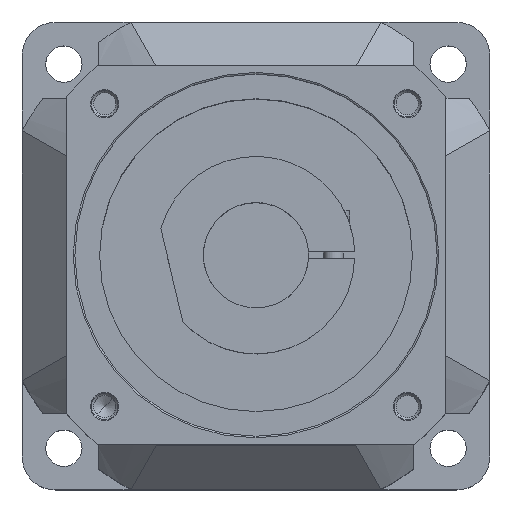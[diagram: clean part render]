
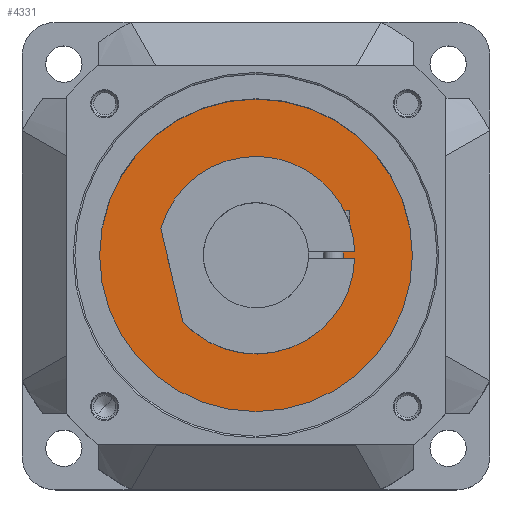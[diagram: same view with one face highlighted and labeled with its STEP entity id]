
A CAD part, top view. The second image highlights one B-rep face of the part: STEP entity #4331.
In plain terms, the highlighted planar face has unit normal (0, 0, 1) as drawn and (0, 1, 0) by its records, which use the part's own axes.
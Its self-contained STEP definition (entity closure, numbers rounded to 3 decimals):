
#2963=CARTESIAN_POINT('',(37.462,63.5,53.119));
#2993=CARTESIAN_POINT('',(53.119,63.5,37.462));
#3005=CARTESIAN_POINT('',(0.,63.5,0.));
#3006=DIRECTION('',(0.,1.,0.));
#3007=DIRECTION('',(0.,0.,1.));
#3008=AXIS2_PLACEMENT_3D('',#3005,#3006,#3007);
#3010=CARTESIAN_POINT('',(0.,63.5,0.));
#3011=DIRECTION('',(0.,1.,0.));
#3012=DIRECTION('',(0.,0.,-1.));
#3013=AXIS2_PLACEMENT_3D('',#3010,#3011,#3012);
#3015=DIRECTION('',(0.,0.,1.));
#3016=VECTOR('',#3015,7.157);
#3017=CARTESIAN_POINT('',(37.462,63.5,45.962));
#3018=LINE('',#3017,#3016);
#3019=CARTESIAN_POINT('',(0.,63.5,0.));
#3020=DIRECTION('',(0.,1.,0.));
#3021=DIRECTION('',(0.466,0.,0.885));
#3022=AXIS2_PLACEMENT_3D('',#3019,#3020,#3021);
#3024=DIRECTION('',(1.,0.,0.));
#3025=VECTOR('',#3024,60.622);
#3026=CARTESIAN_POINT('',(-30.311,63.5,57.5));
#3027=LINE('',#3026,#3025);
#3028=CARTESIAN_POINT('',(0.,63.5,0.));
#3029=DIRECTION('',(0.,1.,0.));
#3030=DIRECTION('',(-0.576,0.,0.817));
#3031=AXIS2_PLACEMENT_3D('',#3028,#3029,#3030);
#3033=DIRECTION('',(0.,0.,-1.));
#3034=VECTOR('',#3033,7.157);
#3035=CARTESIAN_POINT('',(-37.462,63.5,53.119));
#3036=LINE('',#3035,#3034);
#3037=CARTESIAN_POINT('',(-45.962,63.5,45.962));
#3038=DIRECTION('',(0.,1.,0.));
#3039=DIRECTION('',(1.,0.,0.));
#3040=AXIS2_PLACEMENT_3D('',#3037,#3038,#3039);
#3042=DIRECTION('',(-1.,0.,0.));
#3043=VECTOR('',#3042,7.157);
#3044=CARTESIAN_POINT('',(-45.962,63.5,37.462));
#3045=LINE('',#3044,#3043);
#3046=CARTESIAN_POINT('',(0.,63.5,0.));
#3047=DIRECTION('',(0.,1.,0.));
#3048=DIRECTION('',(-0.885,0.,0.466));
#3049=AXIS2_PLACEMENT_3D('',#3046,#3047,#3048);
#3051=DIRECTION('',(0.,0.,1.));
#3052=VECTOR('',#3051,60.622);
#3053=CARTESIAN_POINT('',(-57.5,63.5,-30.311));
#3054=LINE('',#3053,#3052);
#3055=CARTESIAN_POINT('',(0.,63.5,0.));
#3056=DIRECTION('',(0.,1.,0.));
#3057=DIRECTION('',(-0.817,0.,-0.576));
#3058=AXIS2_PLACEMENT_3D('',#3055,#3056,#3057);
#3060=DIRECTION('',(1.,0.,0.));
#3061=VECTOR('',#3060,7.157);
#3062=CARTESIAN_POINT('',(-53.119,63.5,-37.462));
#3063=LINE('',#3062,#3061);
#3064=CARTESIAN_POINT('',(-45.962,63.5,-45.962));
#3065=DIRECTION('',(0.,1.,0.));
#3066=DIRECTION('',(0.,0.,1.));
#3067=AXIS2_PLACEMENT_3D('',#3064,#3065,#3066);
#3069=DIRECTION('',(0.,0.,-1.));
#3070=VECTOR('',#3069,7.157);
#3071=CARTESIAN_POINT('',(-37.462,63.5,-45.962));
#3072=LINE('',#3071,#3070);
#3073=CARTESIAN_POINT('',(0.,63.5,0.));
#3074=DIRECTION('',(0.,1.,0.));
#3075=DIRECTION('',(-0.466,0.,-0.885));
#3076=AXIS2_PLACEMENT_3D('',#3073,#3074,#3075);
#3078=DIRECTION('',(-1.,0.,0.));
#3079=VECTOR('',#3078,60.622);
#3080=CARTESIAN_POINT('',(30.311,63.5,-57.5));
#3081=LINE('',#3080,#3079);
#3082=CARTESIAN_POINT('',(0.,63.5,0.));
#3083=DIRECTION('',(0.,1.,0.));
#3084=DIRECTION('',(0.576,0.,-0.817));
#3085=AXIS2_PLACEMENT_3D('',#3082,#3083,#3084);
#3087=DIRECTION('',(0.,0.,1.));
#3088=VECTOR('',#3087,7.157);
#3089=CARTESIAN_POINT('',(37.462,63.5,-53.119));
#3090=LINE('',#3089,#3088);
#3091=CARTESIAN_POINT('',(45.962,63.5,-45.962));
#3092=DIRECTION('',(0.,1.,0.));
#3093=DIRECTION('',(-1.,0.,0.));
#3094=AXIS2_PLACEMENT_3D('',#3091,#3092,#3093);
#3096=DIRECTION('',(1.,0.,0.));
#3097=VECTOR('',#3096,7.157);
#3098=CARTESIAN_POINT('',(45.962,63.5,-37.462));
#3099=LINE('',#3098,#3097);
#3100=CARTESIAN_POINT('',(0.,63.5,0.));
#3101=DIRECTION('',(0.,1.,0.));
#3102=DIRECTION('',(0.885,0.,-0.466));
#3103=AXIS2_PLACEMENT_3D('',#3100,#3101,#3102);
#3105=DIRECTION('',(0.,0.,-1.));
#3106=VECTOR('',#3105,60.622);
#3107=CARTESIAN_POINT('',(57.5,63.5,30.311));
#3108=LINE('',#3107,#3106);
#3109=CARTESIAN_POINT('',(0.,63.5,0.));
#3110=DIRECTION('',(0.,1.,0.));
#3111=DIRECTION('',(0.817,0.,0.576));
#3112=AXIS2_PLACEMENT_3D('',#3109,#3110,#3111);
#3114=DIRECTION('',(-1.,0.,0.));
#3115=VECTOR('',#3114,7.157);
#3116=CARTESIAN_POINT('',(53.119,63.5,37.462));
#3117=LINE('',#3116,#3115);
#3118=CARTESIAN_POINT('',(45.962,63.5,45.962));
#3119=DIRECTION('',(0.,1.,0.));
#3120=DIRECTION('',(0.,0.,-1.));
#3121=AXIS2_PLACEMENT_3D('',#3118,#3119,#3120);
#3452=CARTESIAN_POINT('',(-53.119,63.5,37.462));
#3482=CARTESIAN_POINT('',(-37.462,63.5,53.119));
#3598=CARTESIAN_POINT('',(-37.462,63.5,-53.119));
#3628=CARTESIAN_POINT('',(-53.119,63.5,-37.462));
#3726=CARTESIAN_POINT('',(53.119,63.5,-37.462));
#3756=CARTESIAN_POINT('',(37.462,63.5,-53.119));
#3848=CARTESIAN_POINT('',(-57.5,63.5,-30.311));
#3849=CARTESIAN_POINT('',(-57.5,63.5,30.311));
#3850=VERTEX_POINT('',#3848);
#3851=VERTEX_POINT('',#3849);
#3852=CARTESIAN_POINT('',(-30.311,63.5,57.5));
#3853=CARTESIAN_POINT('',(30.311,63.5,57.5));
#3854=VERTEX_POINT('',#3852);
#3855=VERTEX_POINT('',#3853);
#3856=CARTESIAN_POINT('',(57.5,63.5,30.311));
#3857=CARTESIAN_POINT('',(57.5,63.5,-30.311));
#3858=VERTEX_POINT('',#3856);
#3859=VERTEX_POINT('',#3857);
#3860=CARTESIAN_POINT('',(30.311,63.5,-57.5));
#3861=CARTESIAN_POINT('',(-30.311,63.5,-57.5));
#3862=VERTEX_POINT('',#3860);
#3863=VERTEX_POINT('',#3861);
#3958=CARTESIAN_POINT('',(0.,63.5,22.5));
#3959=CARTESIAN_POINT('',(0.,63.5,-22.5));
#3960=VERTEX_POINT('',#3958);
#3961=VERTEX_POINT('',#3959);
#3993=VERTEX_POINT('',#3726);
#3996=VERTEX_POINT('',#3756);
#3997=CARTESIAN_POINT('',(45.962,63.5,-37.462));
#3998=VERTEX_POINT('',#3997);
#3999=CARTESIAN_POINT('',(37.462,63.5,-45.962));
#4000=VERTEX_POINT('',#3999);
#4002=VERTEX_POINT('',#3598);
#4005=VERTEX_POINT('',#3628);
#4006=CARTESIAN_POINT('',(-37.462,63.5,-45.962));
#4007=VERTEX_POINT('',#4006);
#4008=CARTESIAN_POINT('',(-45.962,63.5,-37.462));
#4009=VERTEX_POINT('',#4008);
#4011=VERTEX_POINT('',#3452);
#4014=VERTEX_POINT('',#3482);
#4015=CARTESIAN_POINT('',(-45.962,63.5,37.462));
#4016=VERTEX_POINT('',#4015);
#4017=CARTESIAN_POINT('',(-37.462,63.5,45.962));
#4018=VERTEX_POINT('',#4017);
#4020=VERTEX_POINT('',#2963);
#4023=VERTEX_POINT('',#2993);
#4024=CARTESIAN_POINT('',(37.462,63.5,45.962));
#4025=VERTEX_POINT('',#4024);
#4026=CARTESIAN_POINT('',(45.962,63.5,37.462));
#4027=VERTEX_POINT('',#4026);
#4273=CARTESIAN_POINT('',(0.,63.5,0.));
#4274=DIRECTION('',(0.,-1.,0.));
#4275=DIRECTION('',(-1.,0.,0.));
#4276=AXIS2_PLACEMENT_3D('',#4273,#4274,#4275);
#4277=PLANE('',#4276);
#4278=ORIENTED_EDGE('',*,*,#4266,.T.);
#4279=ORIENTED_EDGE('',*,*,#4238,.F.);
#4281=ORIENTED_EDGE('',*,*,#4280,.F.);
#4283=ORIENTED_EDGE('',*,*,#4282,.F.);
#4285=ORIENTED_EDGE('',*,*,#4284,.T.);
#4287=ORIENTED_EDGE('',*,*,#4286,.T.);
#4289=ORIENTED_EDGE('',*,*,#4288,.T.);
#4291=ORIENTED_EDGE('',*,*,#4290,.F.);
#4293=ORIENTED_EDGE('',*,*,#4292,.F.);
#4295=ORIENTED_EDGE('',*,*,#4294,.F.);
#4297=ORIENTED_EDGE('',*,*,#4296,.T.);
#4299=ORIENTED_EDGE('',*,*,#4298,.T.);
#4301=ORIENTED_EDGE('',*,*,#4300,.T.);
#4303=ORIENTED_EDGE('',*,*,#4302,.F.);
#4305=ORIENTED_EDGE('',*,*,#4304,.F.);
#4307=ORIENTED_EDGE('',*,*,#4306,.F.);
#4309=ORIENTED_EDGE('',*,*,#4308,.T.);
#4311=ORIENTED_EDGE('',*,*,#4310,.T.);
#4313=ORIENTED_EDGE('',*,*,#4312,.T.);
#4315=ORIENTED_EDGE('',*,*,#4314,.F.);
#4317=ORIENTED_EDGE('',*,*,#4316,.F.);
#4318=ORIENTED_EDGE('',*,*,#4252,.F.);
#4320=ORIENTED_EDGE('',*,*,#4319,.T.);
#4322=ORIENTED_EDGE('',*,*,#4321,.T.);
#4323=EDGE_LOOP('',(#4278,#4279,#4281,#4283,#4285,#4287,#4289,#4291,#4293,#4295,
#4297,#4299,#4301,#4303,#4305,#4307,#4309,#4311,#4313,#4315,#4317,#4318,#4320,
#4322));
#4324=FACE_OUTER_BOUND('',#4323,.F.);
#4326=ORIENTED_EDGE('',*,*,#4325,.T.);
#4328=ORIENTED_EDGE('',*,*,#4327,.T.);
#4329=EDGE_LOOP('',(#4326,#4328));
#4330=FACE_BOUND('',#4329,.F.);
#4331=ADVANCED_FACE('',(#4324,#4330),#4277,.F.);
#3009=CIRCLE('',#3008,22.5);
#3014=CIRCLE('',#3013,22.5);
#3023=CIRCLE('',#3022,65.);
#3032=CIRCLE('',#3031,65.);
#3041=CIRCLE('',#3040,8.5);
#3050=CIRCLE('',#3049,65.);
#3059=CIRCLE('',#3058,65.);
#3068=CIRCLE('',#3067,8.5);
#3077=CIRCLE('',#3076,65.);
#3086=CIRCLE('',#3085,65.);
#3095=CIRCLE('',#3094,8.5);
#3104=CIRCLE('',#3103,65.);
#3113=CIRCLE('',#3112,65.);
#3122=CIRCLE('',#3121,8.5);
#4238=EDGE_CURVE('',#3855,#4020,#3023,.T.);
#4252=EDGE_CURVE('',#4023,#3858,#3113,.T.);
#4266=EDGE_CURVE('',#4025,#4020,#3018,.T.);
#4280=EDGE_CURVE('',#3854,#3855,#3027,.T.);
#4282=EDGE_CURVE('',#4014,#3854,#3032,.T.);
#4284=EDGE_CURVE('',#4014,#4018,#3036,.T.);
#4286=EDGE_CURVE('',#4018,#4016,#3041,.T.);
#4288=EDGE_CURVE('',#4016,#4011,#3045,.T.);
#4290=EDGE_CURVE('',#3851,#4011,#3050,.T.);
#4292=EDGE_CURVE('',#3850,#3851,#3054,.T.);
#4294=EDGE_CURVE('',#4005,#3850,#3059,.T.);
#4296=EDGE_CURVE('',#4005,#4009,#3063,.T.);
#4298=EDGE_CURVE('',#4009,#4007,#3068,.T.);
#4300=EDGE_CURVE('',#4007,#4002,#3072,.T.);
#4302=EDGE_CURVE('',#3863,#4002,#3077,.T.);
#4304=EDGE_CURVE('',#3862,#3863,#3081,.T.);
#4306=EDGE_CURVE('',#3996,#3862,#3086,.T.);
#4308=EDGE_CURVE('',#3996,#4000,#3090,.T.);
#4310=EDGE_CURVE('',#4000,#3998,#3095,.T.);
#4312=EDGE_CURVE('',#3998,#3993,#3099,.T.);
#4314=EDGE_CURVE('',#3859,#3993,#3104,.T.);
#4316=EDGE_CURVE('',#3858,#3859,#3108,.T.);
#4319=EDGE_CURVE('',#4023,#4027,#3117,.T.);
#4321=EDGE_CURVE('',#4027,#4025,#3122,.T.);
#4325=EDGE_CURVE('',#3960,#3961,#3009,.T.);
#4327=EDGE_CURVE('',#3961,#3960,#3014,.T.);
